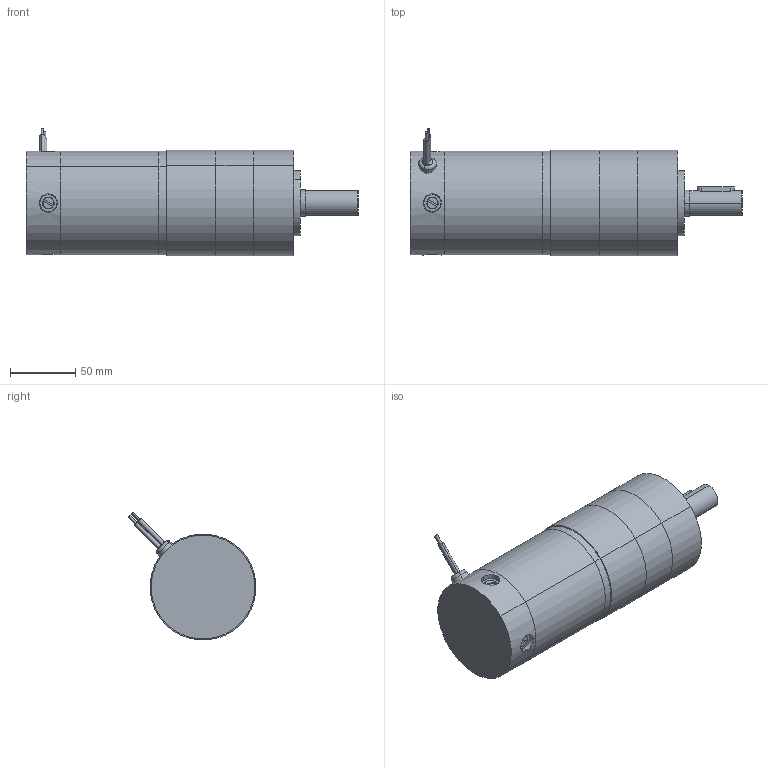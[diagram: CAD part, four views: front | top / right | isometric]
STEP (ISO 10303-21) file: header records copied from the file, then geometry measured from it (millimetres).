
FILE_DESCRIPTION (( 'STEP AP203' ), '1' );
FILE_NAME ('d33455bgp1.step', '2018-12-07T19:32:18', ( '' ), ( '' ), 'SwSTEP 2.0', 'SolidWorks 2017', '' );
FILE_SCHEMA (( 'CONFIG_CONTROL_DESIGN' ));
Length unit declared in the file: inch
Products named in the file (1): d33455bgp1
Bounding box: 253.66 x 97.55 x 97.55 mm (x, y, z)
Volume: 1055529.3 mm3; surface area: 147169 mm2
Topology: 19 solids, 19 shells, 356 faces, 752 edges, 470 vertices
Faces by surface type: cylinder 151, plane 150, cone 45, torus 6, sphere 4
Entity records: 10004 total; most frequent: CARTESIAN_POINT 2093, DIRECTION 1771, ORIENTED_EDGE 1472, EDGE_CURVE 736, AXIS2_PLACEMENT_3D 708, VERTEX_POINT 470, EDGE_LOOP 424, FACE_OUTER_BOUND 356
